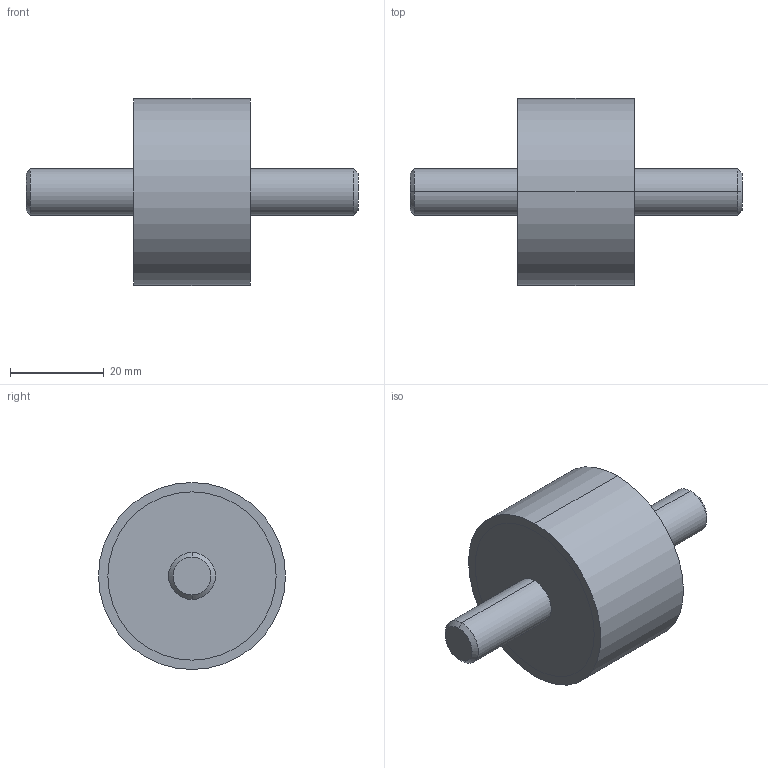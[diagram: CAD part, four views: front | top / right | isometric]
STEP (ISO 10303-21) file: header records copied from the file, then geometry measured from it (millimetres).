
FILE_DESCRIPTION (( 'STEP AP214' ), '1' );
FILE_NAME ('351-40-25-M10-SS-40.step', '2025-07-23T10:01:56', ( '' ), ( '' ), 'SwSTEP 2.0', 'SolidWorks 2022', '' );
FILE_SCHEMA (( 'AUTOMOTIVE_DESIGN' ));
Length unit declared in the file: millimetre
Products named in the file (1): 351-40-25-M10-SS-40
Bounding box: 71 x 40 x 40 mm (x, y, z)
Volume: 34983.4 mm3; surface area: 7065.6 mm2
Topology: 1 solids, 1 shells, 20 faces, 38 edges, 24 vertices
Faces by surface type: cylinder 10, plane 6, cone 4
Entity records: 636 total; most frequent: DIRECTION 104, CARTESIAN_POINT 83, ORIENTED_EDGE 76, AXIS2_PLACEMENT_3D 45, EDGE_CURVE 38, EDGE_LOOP 24, VERTEX_POINT 24, CIRCLE 24
